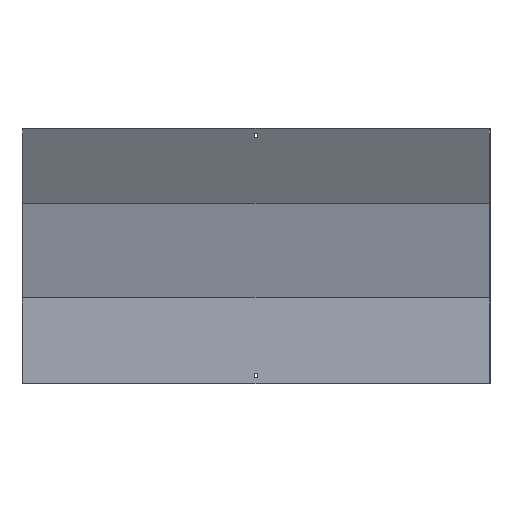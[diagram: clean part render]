
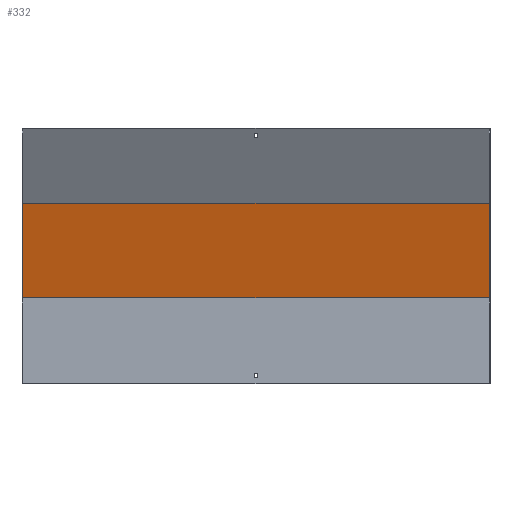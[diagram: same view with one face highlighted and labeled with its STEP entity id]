
A CAD part, front view. The second image highlights one B-rep face of the part: STEP entity #332.
In plain terms, the highlighted planar face has unit normal (0, -0.966, -0.259).
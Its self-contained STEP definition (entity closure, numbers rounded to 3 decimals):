
#35 = DIRECTION ( 'NONE',  ( -1., 0., 0. ) ) ;
#40 = DIRECTION ( 'NONE',  ( 0., -0.259, 0.966 ) ) ;
#48 = ORIENTED_EDGE ( 'NONE', *, *, #305, .F. ) ;
#64 = LINE ( 'NONE', #727, #536 ) ;
#105 = VERTEX_POINT ( 'NONE', #633 ) ;
#160 = DIRECTION ( 'NONE',  ( 0., 0.259, -0.966 ) ) ;
#162 = DIRECTION ( 'NONE',  ( 0., -0.259, 0.966 ) ) ;
#169 = LINE ( 'NONE', #306, #678 ) ;
#176 = ORIENTED_EDGE ( 'NONE', *, *, #837, .F. ) ;
#239 = ORIENTED_EDGE ( 'NONE', *, *, #657, .T. ) ;
#241 = AXIS2_PLACEMENT_3D ( 'NONE', #756, #309, #160 ) ;
#268 = CARTESIAN_POINT ( 'NONE',  ( 450., 18.5, 166.436 ) ) ;
#292 = EDGE_CURVE ( 'NONE', #695, #105, #818, .T. ) ;
#305 = EDGE_CURVE ( 'NONE', #695, #507, #169, .T. ) ;
#306 = CARTESIAN_POINT ( 'NONE',  ( 451.5, 18.5, 166.436 ) ) ;
#309 = DIRECTION ( 'NONE',  ( 0., -0.966, -0.259 ) ) ;
#326 = VERTEX_POINT ( 'NONE', #752 ) ;
#332 = ADVANCED_FACE ( 'NONE', ( #687 ), #758, .T. ) ;
#414 = LINE ( 'NONE', #487, #537 ) ;
#418 = VECTOR ( 'NONE', #40, 1000. ) ;
#487 = CARTESIAN_POINT ( 'NONE',  ( -450., 58.87, 15.774 ) ) ;
#507 = VERTEX_POINT ( 'NONE', #730 ) ;
#514 = DIRECTION ( 'NONE',  ( -1., 0., 0. ) ) ;
#536 = VECTOR ( 'NONE', #514, 1000. ) ;
#537 = VECTOR ( 'NONE', #162, 1000. ) ;
#545 = ORIENTED_EDGE ( 'NONE', *, *, #292, .T. ) ;
#633 = CARTESIAN_POINT ( 'NONE',  ( 450., -30.383, 348.871 ) ) ;
#657 = EDGE_CURVE ( 'NONE', #105, #326, #64, .T. ) ;
#678 = VECTOR ( 'NONE', #35, 1000. ) ;
#687 = FACE_OUTER_BOUND ( 'NONE', #765, .T. ) ;
#695 = VERTEX_POINT ( 'NONE', #268 ) ;
#727 = CARTESIAN_POINT ( 'NONE',  ( 451.5, -30.383, 348.871 ) ) ;
#730 = CARTESIAN_POINT ( 'NONE',  ( -450., 18.5, 166.436 ) ) ;
#752 = CARTESIAN_POINT ( 'NONE',  ( -450., -30.383, 348.871 ) ) ;
#756 = CARTESIAN_POINT ( 'NONE',  ( 451.5, 17.87, 168.788 ) ) ;
#758 = PLANE ( 'NONE',  #241 ) ;
#765 = EDGE_LOOP ( 'NONE', ( #176, #48, #545, #239 ) ) ;
#818 = LINE ( 'NONE', #829, #418 ) ;
#829 = CARTESIAN_POINT ( 'NONE',  ( 450., 58.87, 15.774 ) ) ;
#837 = EDGE_CURVE ( 'NONE', #507, #326, #414, .T. ) ;
